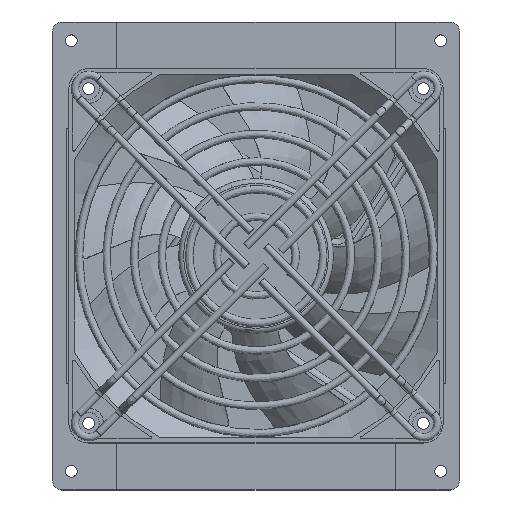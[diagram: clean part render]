
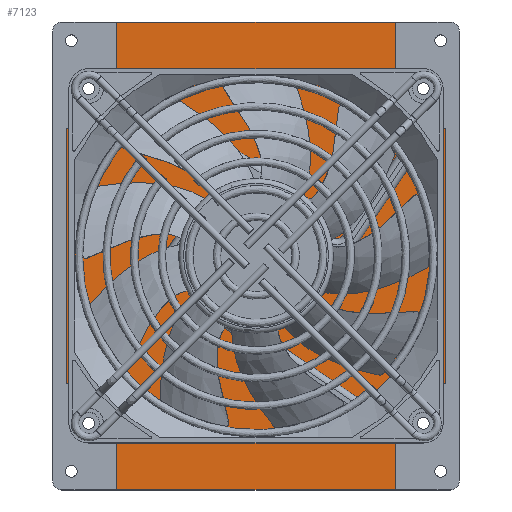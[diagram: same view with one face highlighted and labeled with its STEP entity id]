
A CAD part, top view. The second image highlights one B-rep face of the part: STEP entity #7123.
In plain terms, the highlighted planar face has unit normal (0, 0, 1).
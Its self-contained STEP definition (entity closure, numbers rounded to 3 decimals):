
#681=FACE_OUTER_BOUND('',#1125,.T.);
#1125=EDGE_LOOP('',(#4707,#4708,#4709,#4710,#4711,#4712,#4713,#4714,#4715,
#4716,#4717,#4718,#4719,#4720,#4721,#4722));
#1607=LINE('',#10434,#1969);
#1608=LINE('',#10436,#1970);
#1609=LINE('',#10438,#1971);
#1610=LINE('',#10442,#1972);
#1611=LINE('',#10444,#1973);
#1612=LINE('',#10446,#1974);
#1613=LINE('',#10450,#1975);
#1614=LINE('',#10452,#1976);
#1615=LINE('',#10454,#1977);
#1616=LINE('',#10458,#1978);
#1617=LINE('',#10460,#1979);
#1618=LINE('',#10461,#1980);
#1969=VECTOR('',#8439,10.);
#1970=VECTOR('',#8440,10.);
#1971=VECTOR('',#8441,10.);
#1972=VECTOR('',#8444,10.);
#1973=VECTOR('',#8445,10.);
#1974=VECTOR('',#8446,10.);
#1975=VECTOR('',#8449,10.);
#1976=VECTOR('',#8450,10.);
#1977=VECTOR('',#8451,10.);
#1978=VECTOR('',#8454,10.);
#1979=VECTOR('',#8455,10.);
#1980=VECTOR('',#8456,10.);
#2331=CIRCLE('',#7617,3.);
#2332=CIRCLE('',#7618,3.);
#2333=CIRCLE('',#7619,3.);
#2334=CIRCLE('',#7620,3.);
#2835=VERTEX_POINT('',#10430);
#2836=VERTEX_POINT('',#10431);
#2837=VERTEX_POINT('',#10433);
#2838=VERTEX_POINT('',#10435);
#2839=VERTEX_POINT('',#10437);
#2840=VERTEX_POINT('',#10439);
#2841=VERTEX_POINT('',#10441);
#2842=VERTEX_POINT('',#10443);
#2843=VERTEX_POINT('',#10445);
#2844=VERTEX_POINT('',#10447);
#2845=VERTEX_POINT('',#10449);
#2846=VERTEX_POINT('',#10451);
#2847=VERTEX_POINT('',#10453);
#2848=VERTEX_POINT('',#10455);
#2849=VERTEX_POINT('',#10457);
#2850=VERTEX_POINT('',#10459);
#3565=EDGE_CURVE('',#2835,#2836,#2331,.T.);
#3566=EDGE_CURVE('',#2836,#2837,#1607,.T.);
#3567=EDGE_CURVE('',#2838,#2837,#1608,.T.);
#3568=EDGE_CURVE('',#2838,#2839,#1609,.T.);
#3569=EDGE_CURVE('',#2839,#2840,#2332,.T.);
#3570=EDGE_CURVE('',#2840,#2841,#1610,.T.);
#3571=EDGE_CURVE('',#2841,#2842,#1611,.T.);
#3572=EDGE_CURVE('',#2843,#2842,#1612,.T.);
#3573=EDGE_CURVE('',#2843,#2844,#2333,.T.);
#3574=EDGE_CURVE('',#2844,#2845,#1613,.T.);
#3575=EDGE_CURVE('',#2846,#2845,#1614,.T.);
#3576=EDGE_CURVE('',#2846,#2847,#1615,.T.);
#3577=EDGE_CURVE('',#2847,#2848,#2334,.T.);
#3578=EDGE_CURVE('',#2848,#2849,#1616,.T.);
#3579=EDGE_CURVE('',#2850,#2849,#1617,.T.);
#3580=EDGE_CURVE('',#2850,#2835,#1618,.T.);
#4707=ORIENTED_EDGE('',*,*,#3565,.T.);
#4708=ORIENTED_EDGE('',*,*,#3566,.T.);
#4709=ORIENTED_EDGE('',*,*,#3567,.F.);
#4710=ORIENTED_EDGE('',*,*,#3568,.T.);
#4711=ORIENTED_EDGE('',*,*,#3569,.T.);
#4712=ORIENTED_EDGE('',*,*,#3570,.T.);
#4713=ORIENTED_EDGE('',*,*,#3571,.T.);
#4714=ORIENTED_EDGE('',*,*,#3572,.F.);
#4715=ORIENTED_EDGE('',*,*,#3573,.T.);
#4716=ORIENTED_EDGE('',*,*,#3574,.T.);
#4717=ORIENTED_EDGE('',*,*,#3575,.F.);
#4718=ORIENTED_EDGE('',*,*,#3576,.T.);
#4719=ORIENTED_EDGE('',*,*,#3577,.T.);
#4720=ORIENTED_EDGE('',*,*,#3578,.T.);
#4721=ORIENTED_EDGE('',*,*,#3579,.F.);
#4722=ORIENTED_EDGE('',*,*,#3580,.T.);
#6991=PLANE('',#7616);
#7123=ADVANCED_FACE('',(#681),#6991,.T.);
#7616=AXIS2_PLACEMENT_3D('',#10429,#8435,#8436);
#7617=AXIS2_PLACEMENT_3D('',#10432,#8437,#8438);
#7618=AXIS2_PLACEMENT_3D('',#10440,#8442,#8443);
#7619=AXIS2_PLACEMENT_3D('',#10448,#8447,#8448);
#7620=AXIS2_PLACEMENT_3D('',#10456,#8452,#8453);
#8435=DIRECTION('center_axis',(0.,0.,1.));
#8436=DIRECTION('ref_axis',(1.,0.,0.));
#8437=DIRECTION('center_axis',(0.,0.,-1.));
#8438=DIRECTION('ref_axis',(1.,0.,0.));
#8439=DIRECTION('',(0.,-1.,0.));
#8440=DIRECTION('',(-1.,0.,0.));
#8441=DIRECTION('',(0.,1.,0.));
#8442=DIRECTION('center_axis',(0.,0.,-1.));
#8443=DIRECTION('ref_axis',(0.,1.,0.));
#8444=DIRECTION('',(1.,0.,0.));
#8445=DIRECTION('',(0.,1.,0.));
#8446=DIRECTION('',(1.,0.,0.));
#8447=DIRECTION('center_axis',(0.,0.,-1.));
#8448=DIRECTION('ref_axis',(-1.,0.,0.));
#8449=DIRECTION('',(0.,1.,0.));
#8450=DIRECTION('',(1.,0.,0.));
#8451=DIRECTION('',(0.,-1.,0.));
#8452=DIRECTION('center_axis',(0.,0.,-1.));
#8453=DIRECTION('ref_axis',(0.,-1.,0.));
#8454=DIRECTION('',(-1.,0.,0.));
#8455=DIRECTION('',(0.,1.,0.));
#8456=DIRECTION('',(1.,0.,0.));
#10429=CARTESIAN_POINT('Origin',(30.583,-354.995,30.));
#10430=CARTESIAN_POINT('',(38.195,-332.195,30.));
#10431=CARTESIAN_POINT('',(41.195,-335.195,30.));
#10432=CARTESIAN_POINT('Origin',(38.195,-335.195,30.));
#10433=CARTESIAN_POINT('',(41.195,-354.995,30.));
#10434=CARTESIAN_POINT('',(41.195,-354.995,30.));
#10435=CARTESIAN_POINT('',(100.795,-354.995,30.));
#10436=CARTESIAN_POINT('',(114.495,-354.995,30.));
#10437=CARTESIAN_POINT('',(100.795,-335.195,30.));
#10438=CARTESIAN_POINT('',(100.795,-345.095,30.));
#10439=CARTESIAN_POINT('',(103.795,-332.195,30.));
#10440=CARTESIAN_POINT('Origin',(103.795,-335.195,30.));
#10441=CARTESIAN_POINT('',(111.407,-332.195,30.));
#10442=CARTESIAN_POINT('',(33.107,-332.195,30.));
#10443=CARTESIAN_POINT('',(111.407,-277.795,30.));
#10444=CARTESIAN_POINT('',(111.407,-354.995,30.));
#10445=CARTESIAN_POINT('',(103.795,-277.795,30.));
#10446=CARTESIAN_POINT('',(33.107,-277.795,30.));
#10447=CARTESIAN_POINT('',(100.795,-274.795,30.));
#10448=CARTESIAN_POINT('Origin',(103.795,-274.795,30.));
#10449=CARTESIAN_POINT('',(100.795,-254.995,30.));
#10450=CARTESIAN_POINT('',(100.795,-304.995,30.));
#10451=CARTESIAN_POINT('',(41.195,-254.995,30.));
#10452=CARTESIAN_POINT('',(114.495,-254.995,30.));
#10453=CARTESIAN_POINT('',(41.195,-274.795,30.));
#10454=CARTESIAN_POINT('',(41.195,-314.895,30.));
#10455=CARTESIAN_POINT('',(38.195,-277.795,30.));
#10456=CARTESIAN_POINT('Origin',(38.195,-274.795,30.));
#10457=CARTESIAN_POINT('',(30.583,-277.795,30.));
#10458=CARTESIAN_POINT('',(30.583,-277.795,30.));
#10459=CARTESIAN_POINT('',(30.583,-332.195,30.));
#10460=CARTESIAN_POINT('',(30.583,-354.995,30.));
#10461=CARTESIAN_POINT('',(31.845,-332.195,30.));
